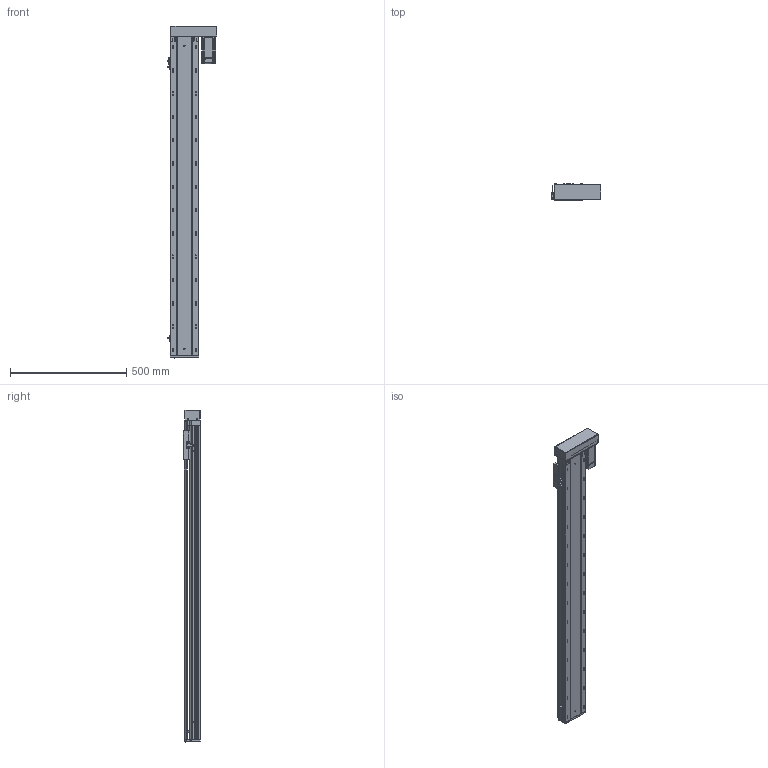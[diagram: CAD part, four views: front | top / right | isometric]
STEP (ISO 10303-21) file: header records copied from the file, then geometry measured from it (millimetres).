
FILE_DESCRIPTION (( 'STEP AP203' ), '1' );
FILE_NAME ('RY120-L2020-1000-RK.SLDASM_1150.step', '2021-03-12T07:29:58', ( '盈信电脑' ), ( '东莞市道滘镇水果街19号' ), 'SwSTEP 2.0', 'SolidWorks 2012', '' );
FILE_SCHEMA (( 'CONFIG_CONTROL_DESIGN' ));
Products named in the file (15): RY120-L2020-1000-RK.SLDASM_1150; RY120蛌殏萇儂欶; RY120-400W萇儂傷-酘衵殏_450; 15; 侂狟400W侜督萇儂; RY120酘殏萇儂假蚾啣; RY120转拆电端丝杆支撑座(20丝杆，7002轴承); RY120外置感应片(140共用）; 覜茼ん672; 滅袉蝶18-10; 滅袉蝶18-24; RY120綴裔啣; RY120-1000-RK蛌殏倰第奻裔啣_1150; RY120臏賑輸(20蹟譫); RY120-1000-RK蛌殏倰第菁釱_1150
Assembly tree (17 placements, depth 4):
  RY120-L2020-1000-RK.SLDASM_1150
    RY120-1000-RK蛌殏倰第菁釱_1150
    RY120-1000-RK蛌殏倰第奻裔啣_1150
    RY120臏賑輸(20蹟譫)
    RY120綴裔啣
    覜茼ん672  x3
    滅袉蝶18-10
    滅袉蝶18-24  x2
    RY120外置感应片(140共用）
    RY120转拆电端丝杆支撑座(20丝杆，7002轴承)
    RY120-400W萇儂傷-酘衵殏_450
      RY120酘殏萇儂假蚾啣
      侂狟400W侜督萇儂
        15
      RY120蛌殏萇儂欶
Bounding box: 214.2 x 73 x 1425 mm (x, y, z)
Volume: 3887888.2 mm3; surface area: 1458982.6 mm2
Topology: 16 solids, 16 shells, 2794 faces, 7767 edges, 4968 vertices
Faces by surface type: plane 1286, cylinder 1138, cone 265, bspline 105
Entity records: 94981 total; most frequent: CARTESIAN_POINT 27959, ORIENTED_EDGE 14158, DIRECTION 12835, EDGE_CURVE 7079, VERTEX_POINT 4636, AXIS2_PLACEMENT_3D 4341, VECTOR 4153, LINE 4153
